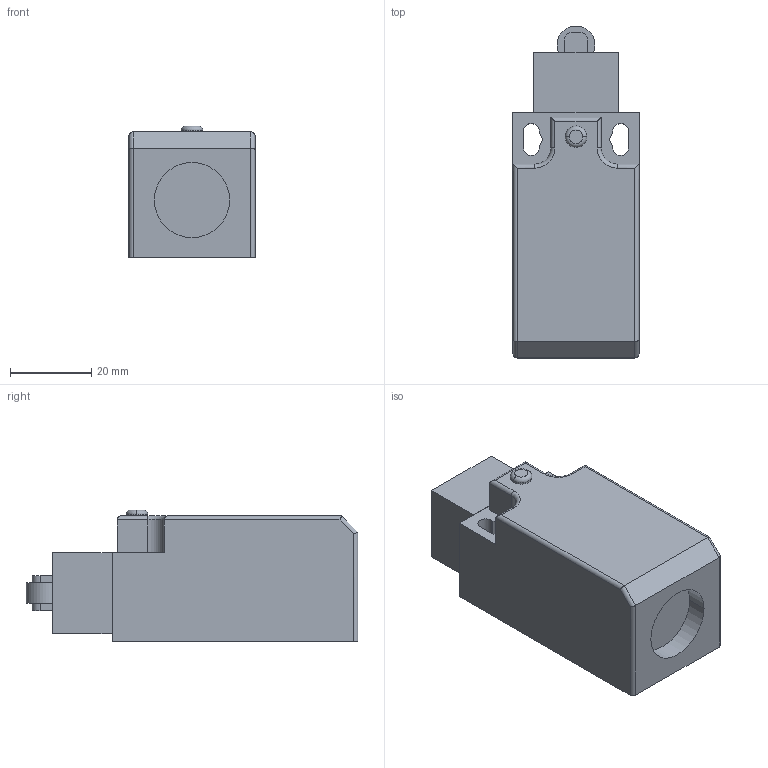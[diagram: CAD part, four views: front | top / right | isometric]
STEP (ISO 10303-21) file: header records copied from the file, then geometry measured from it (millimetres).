
FILE_DESCRIPTION((''),'2;1');
FILE_NAME('440P-CRPM12E','2014-05-09T',('Pro Source'),(''),'PRO/ENGINEER BY PARAMETRIC TECHNOLOGY CORPORATION, 2010280','PRO/ENGINEER BY PARAMETRIC TECHNOLOGY CORPORATION, 2010280','');
FILE_SCHEMA(('CONFIG_CONTROL_DESIGN'));
Length unit declared in the file: millimetre
Products named in the file (1): 440P-CRPM12E
Bounding box: 31 x 81.63 x 32.44 mm (x, y, z)
Volume: 59307.1 mm3; surface area: 11784.3 mm2
Topology: 1 solids, 1 shells, 74 faces, 184 edges, 118 vertices
Faces by surface type: plane 38, cylinder 32, torus 4
Entity records: 2288 total; most frequent: CARTESIAN_POINT 444, DIRECTION 378, ORIENTED_EDGE 368, EDGE_CURVE 184, AXIS2_PLACEMENT_3D 128, VECTOR 122, LINE 122, VERTEX_POINT 118
